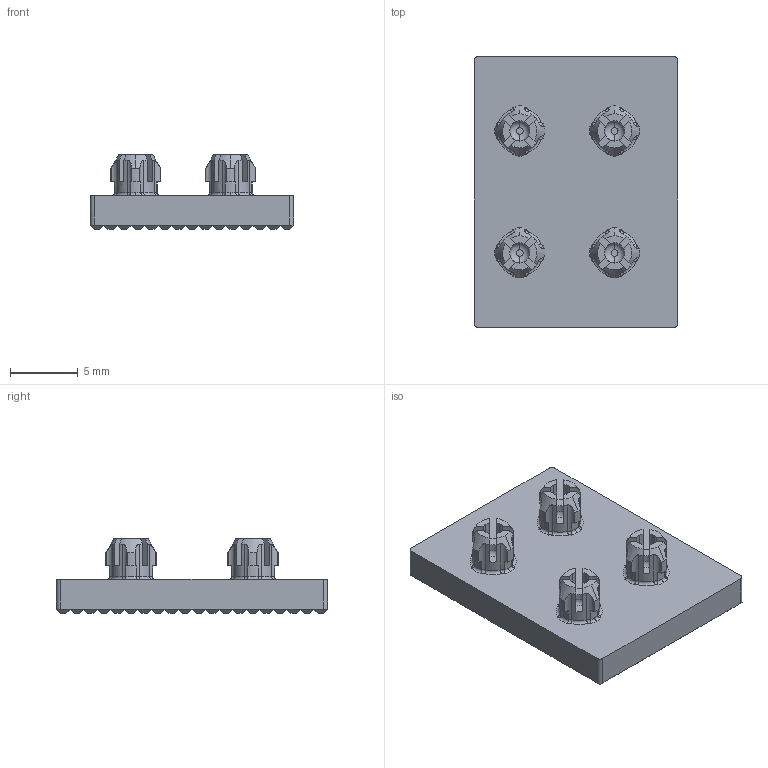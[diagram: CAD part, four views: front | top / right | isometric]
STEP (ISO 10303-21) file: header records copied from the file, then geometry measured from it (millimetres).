
FILE_DESCRIPTION (( 'STEP AP214' ), '1' );
FILE_NAME ('SIL-20G.STEP', '2019-11-20T01:25:28', ( '微软用户' ), ( '微软中国' ), 'SwSTEP 2.0', 'SolidWorks 2016', '' );
FILE_SCHEMA (( 'AUTOMOTIVE_DESIGN' ));
Length unit declared in the file: millimetre
Products named in the file (1): SIL-20G
Bounding box: 15 x 20 x 5.5 mm (x, y, z)
Volume: 764.8 mm3; surface area: 1042.7 mm2
Topology: 1 solids, 1 shells, 1789 faces, 3811 edges, 2028 vertices
Faces by surface type: plane 1589, cylinder 100, torus 76, bspline 24
Entity records: 46411 total; most frequent: CARTESIAN_POINT 9165, ORIENTED_EDGE 7622, DIRECTION 7491, EDGE_CURVE 3811, LINE 3295, VECTOR 3295, AXIS2_PLACEMENT_3D 2098, VERTEX_POINT 2028
